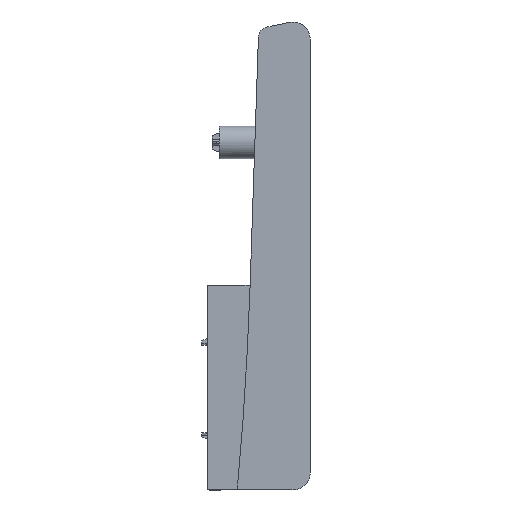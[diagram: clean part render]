
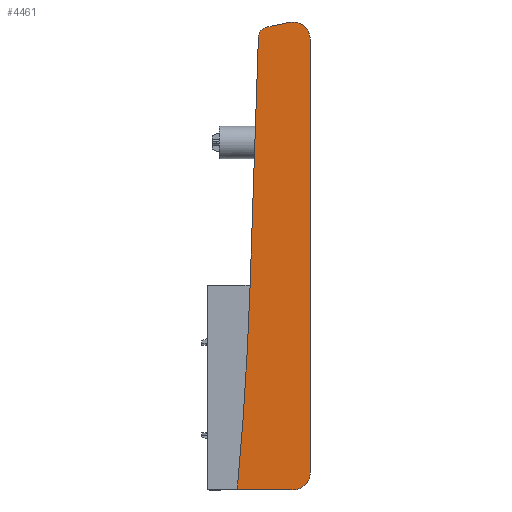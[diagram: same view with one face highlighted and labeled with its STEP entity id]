
A CAD part, top view. The second image highlights one B-rep face of the part: STEP entity #4461.
In plain terms, the highlighted planar face has unit normal (0, 0, 1).
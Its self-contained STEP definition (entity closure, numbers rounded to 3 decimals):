
#108=PLANE('',#4725);
#323=FACE_OUTER_BOUND('',#571,.T.);
#571=EDGE_LOOP('',(#3487,#3488,#3489,#3490,#3491,#3492,#3493,#3494,#3495));
#755=LINE('',#6149,#1340);
#978=LINE('',#6639,#1563);
#979=LINE('',#6643,#1564);
#980=LINE('',#6650,#1565);
#1340=VECTOR('',#4952,26.912);
#1563=VECTOR('',#5355,10.748);
#1564=VECTOR('',#5358,115.638);
#1565=VECTOR('',#5365,202.162);
#1943=CIRCLE('',#4726,5.);
#1944=CIRCLE('',#4727,1634.007);
#1945=CIRCLE('',#4728,1.);
#1946=CIRCLE('',#4729,8.);
#1947=CIRCLE('',#4730,8.);
#1982=VERTEX_POINT('',#6146);
#1983=VERTEX_POINT('',#6148);
#2159=VERTEX_POINT('',#6637);
#2160=VERTEX_POINT('',#6638);
#2161=VERTEX_POINT('',#6640);
#2162=VERTEX_POINT('',#6642);
#2163=VERTEX_POINT('',#6644);
#2164=VERTEX_POINT('',#6647);
#2165=VERTEX_POINT('',#6649);
#2416=EDGE_CURVE('',#1983,#1982,#755,.T.);
#2660=EDGE_CURVE('',#2159,#2160,#978,.T.);
#2661=EDGE_CURVE('',#2161,#2159,#1943,.T.);
#2662=EDGE_CURVE('',#2162,#2161,#979,.T.);
#2663=EDGE_CURVE('',#2163,#2162,#1944,.T.);
#2664=EDGE_CURVE('',#1983,#2163,#1945,.F.);
#2665=EDGE_CURVE('',#2164,#1982,#1946,.T.);
#2666=EDGE_CURVE('',#2165,#2164,#980,.T.);
#2667=EDGE_CURVE('',#2160,#2165,#1947,.T.);
#3487=ORIENTED_EDGE('',*,*,#2660,.F.);
#3488=ORIENTED_EDGE('',*,*,#2661,.F.);
#3489=ORIENTED_EDGE('',*,*,#2662,.F.);
#3490=ORIENTED_EDGE('',*,*,#2663,.F.);
#3491=ORIENTED_EDGE('',*,*,#2664,.F.);
#3492=ORIENTED_EDGE('',*,*,#2416,.T.);
#3493=ORIENTED_EDGE('',*,*,#2665,.F.);
#3494=ORIENTED_EDGE('',*,*,#2666,.F.);
#3495=ORIENTED_EDGE('',*,*,#2667,.F.);
#4461=ADVANCED_FACE('',(#323),#108,.T.);
#4725=AXIS2_PLACEMENT_3D('',#6636,#5353,#5354);
#4726=AXIS2_PLACEMENT_3D('',#6641,#5356,#5357);
#4727=AXIS2_PLACEMENT_3D('',#6645,#5359,#5360);
#4728=AXIS2_PLACEMENT_3D('',#6646,#5361,#5362);
#4729=AXIS2_PLACEMENT_3D('',#6648,#5363,#5364);
#4730=AXIS2_PLACEMENT_3D('',#6651,#5366,#5367);
#4952=DIRECTION('',(1.,0.,0.));
#5353=DIRECTION('center_axis',(0.,0.,1.));
#5354=DIRECTION('ref_axis',(1.,0.,0.));
#5355=DIRECTION('',(0.979,0.204,0.));
#5356=DIRECTION('center_axis',(0.,0.,-1.));
#5357=DIRECTION('ref_axis',(-0.765,0.644,0.));
#5358=DIRECTION('',(0.033,0.999,0.));
#5359=DIRECTION('center_axis',(0.,0.,1.));
#5360=DIRECTION('ref_axis',(-0.996,0.092,0.));
#5361=DIRECTION('center_axis',(0.,0.,-1.));
#5362=DIRECTION('ref_axis',(0.674,-0.739,0.));
#5363=DIRECTION('center_axis',(0.,0.,-1.));
#5364=DIRECTION('ref_axis',(0.707,-0.707,0.));
#5365=DIRECTION('',(0.,-1.,0.));
#5366=DIRECTION('center_axis',(0.,0.,-1.));
#5367=DIRECTION('ref_axis',(0.631,0.776,0.));
#6146=CARTESIAN_POINT('',(-8.,0.,-0.5));
#6148=CARTESIAN_POINT('',(-34.912,0.,-0.5));
#6149=CARTESIAN_POINT('',(-6.747,0.,-0.5));
#6636=CARTESIAN_POINT('Origin',(-13.493,108.39,-0.5));
#6637=CARTESIAN_POINT('',(-20.154,215.801,-0.5));
#6638=CARTESIAN_POINT('',(-9.632,217.993,-0.5));
#6639=CARTESIAN_POINT('',(-29.608,213.832,-0.5));
#6640=CARTESIAN_POINT('',(-24.131,211.074,-0.5));
#6641=CARTESIAN_POINT('Origin',(-19.134,210.906,-0.5));
#6642=CARTESIAN_POINT('',(-28.,95.5,-0.5));
#6643=CARTESIAN_POINT('',(-27.776,102.18,-0.5));
#6644=CARTESIAN_POINT('',(-33.916,0.909,-0.5));
#6645=CARTESIAN_POINT('Origin',(-1661.092,150.164,-0.5));
#6646=CARTESIAN_POINT('Origin',(-34.912,1.,-0.5));
#6647=CARTESIAN_POINT('',(0.,8.,-0.5));
#6648=CARTESIAN_POINT('Origin',(-8.,8.,-0.5));
#6649=CARTESIAN_POINT('',(0.,210.162,-0.5));
#6650=CARTESIAN_POINT('',(0.,164.195,-0.5));
#6651=CARTESIAN_POINT('Origin',(-8.,210.162,-0.5));
